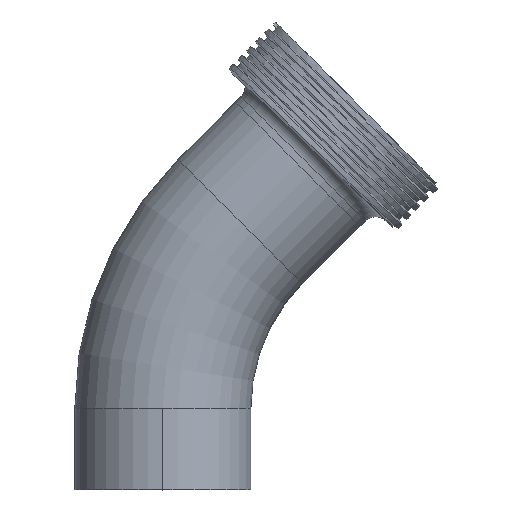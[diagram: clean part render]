
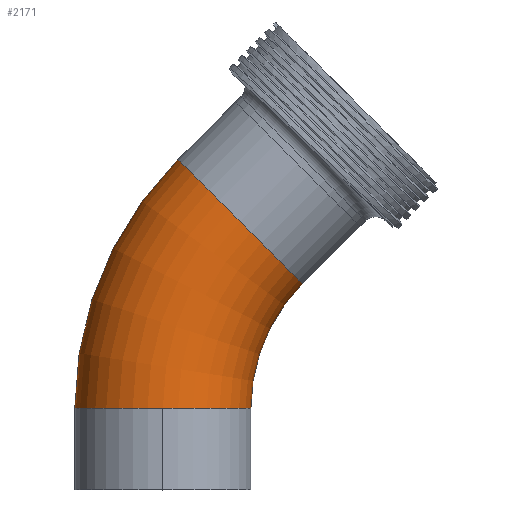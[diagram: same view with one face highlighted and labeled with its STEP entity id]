
A CAD part, top view. The second image highlights one B-rep face of the part: STEP entity #2171.
In plain terms, the highlighted toroidal (fillet/blend) face has major radius 57.15 mm and minor radius 19.05 mm.
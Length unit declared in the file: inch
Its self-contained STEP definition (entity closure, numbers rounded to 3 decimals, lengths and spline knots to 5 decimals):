
#32 = CIRCLE ( 'NONE', #443, 0.75 ) ;
#73 = DIRECTION ( 'NONE',  ( 0.707, 0.707, 0. ) ) ;
#84 = CARTESIAN_POINT ( 'NONE',  ( 2.25, 0.69302, 0. ) ) ;
#131 = AXIS2_PLACEMENT_3D ( 'NONE', #1916, #566, #2130 ) ;
#196 = TOROIDAL_SURFACE ( 'NONE', #1655, 2.25, 0.75 ) ;
#256 = CARTESIAN_POINT ( 'NONE',  ( 1.18934, 1.75368, 0. ) ) ;
#310 = DIRECTION ( 'NONE',  ( 1., 0., 0. ) ) ;
#328 = AXIS2_PLACEMENT_3D ( 'NONE', #2339, #889, #2442 ) ;
#353 = CARTESIAN_POINT ( 'NONE',  ( 2.25, 0.69302, 0. ) ) ;
#404 = VERTEX_POINT ( 'NONE', #868 ) ;
#414 = CIRCLE ( 'NONE', #328, 3. ) ;
#416 = AXIS2_PLACEMENT_3D ( 'NONE', #84, #1642, #310 ) ;
#432 = AXIS2_PLACEMENT_3D ( 'NONE', #516, #2085, #746 ) ;
#443 = AXIS2_PLACEMENT_3D ( 'NONE', #1396, #73, #1630 ) ;
#516 = CARTESIAN_POINT ( 'NONE',  ( 0., 0.69302, 0. ) ) ;
#525 = ORIENTED_EDGE ( 'NONE', *, *, #964, .F. ) ;
#566 = DIRECTION ( 'NONE',  ( 0., 1., 0. ) ) ;
#583 = DIRECTION ( 'NONE',  ( 0., 0., 1. ) ) ;
#672 = ORIENTED_EDGE ( 'NONE', *, *, #1016, .F. ) ;
#746 = DIRECTION ( 'NONE',  ( -1., 0., 0. ) ) ;
#759 = ORIENTED_EDGE ( 'NONE', *, *, #1318, .T. ) ;
#812 = DIRECTION ( 'NONE',  ( 1., 0., 0. ) ) ;
#868 = CARTESIAN_POINT ( 'NONE',  ( 0., 0.69302, 0.75 ) ) ;
#889 = DIRECTION ( 'NONE',  ( 0., 0., 1. ) ) ;
#964 = EDGE_CURVE ( 'NONE', #2475, #1948, #32, .T. ) ;
#996 = EDGE_CURVE ( 'NONE', #404, #1670, #2407, .T. ) ;
#1016 = EDGE_CURVE ( 'NONE', #1948, #1670, #2833, .T. ) ;
#1080 = EDGE_CURVE ( 'NONE', #2475, #2236, #414, .T. ) ;
#1257 = CIRCLE ( 'NONE', #131, 0.75 ) ;
#1312 = CARTESIAN_POINT ( 'NONE',  ( 0.75, 0.69302, 0. ) ) ;
#1318 = EDGE_CURVE ( 'NONE', #2236, #404, #1257, .T. ) ;
#1324 = ORIENTED_EDGE ( 'NONE', *, *, #996, .T. ) ;
#1365 = FACE_OUTER_BOUND ( 'NONE', #1769, .T. ) ;
#1396 = CARTESIAN_POINT ( 'NONE',  ( 0.65901, 2.28401, 0. ) ) ;
#1487 = CARTESIAN_POINT ( 'NONE',  ( -0.75, 0.69302, 0. ) ) ;
#1630 = DIRECTION ( 'NONE',  ( -0.707, 0.707, 0. ) ) ;
#1642 = DIRECTION ( 'NONE',  ( 0., 0., 1. ) ) ;
#1655 = AXIS2_PLACEMENT_3D ( 'NONE', #353, #583, #812 ) ;
#1670 = VERTEX_POINT ( 'NONE', #1312 ) ;
#1769 = EDGE_LOOP ( 'NONE', ( #525, #2318, #759, #1324, #672 ) ) ;
#1916 = CARTESIAN_POINT ( 'NONE',  ( 0., 0.69302, 0. ) ) ;
#1948 = VERTEX_POINT ( 'NONE', #256 ) ;
#2085 = DIRECTION ( 'NONE',  ( 0., 1., 0. ) ) ;
#2130 = DIRECTION ( 'NONE',  ( -1., 0., 0. ) ) ;
#2171 = ADVANCED_FACE ( 'NONE', ( #1365 ), #196, .T. ) ;
#2236 = VERTEX_POINT ( 'NONE', #1487 ) ;
#2318 = ORIENTED_EDGE ( 'NONE', *, *, #1080, .T. ) ;
#2339 = CARTESIAN_POINT ( 'NONE',  ( 2.25, 0.69302, 0. ) ) ;
#2407 = CIRCLE ( 'NONE', #432, 0.75 ) ;
#2442 = DIRECTION ( 'NONE',  ( 1., 0., 0. ) ) ;
#2475 = VERTEX_POINT ( 'NONE', #2500 ) ;
#2500 = CARTESIAN_POINT ( 'NONE',  ( 0.12868, 2.81434, 0. ) ) ;
#2833 = CIRCLE ( 'NONE', #416, 1.5 ) ;
